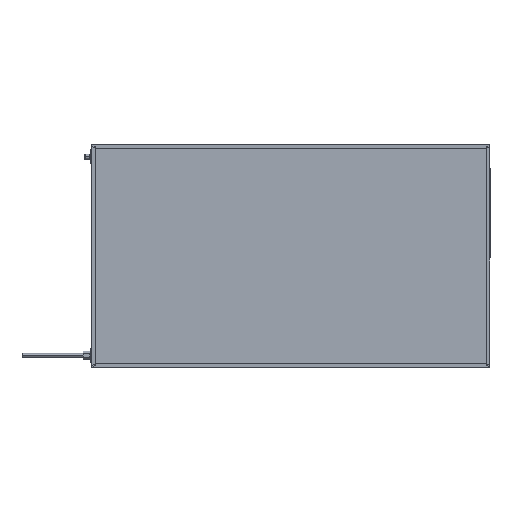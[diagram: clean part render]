
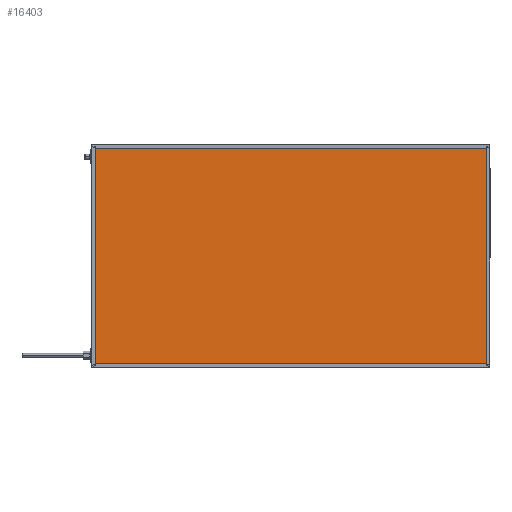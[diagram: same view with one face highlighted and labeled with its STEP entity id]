
A CAD part, top view. The second image highlights one B-rep face of the part: STEP entity #16403.
In plain terms, the highlighted planar face has unit normal (0, 0, 1).
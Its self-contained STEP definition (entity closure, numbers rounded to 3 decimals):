
#928 = DIRECTION ( 'NONE',  ( 0., 0., -1. ) ) ;
#1239 = CARTESIAN_POINT ( 'NONE',  ( 896., 496., 41.85 ) ) ;
#2926 = CARTESIAN_POINT ( 'NONE',  ( 4., 496., 41.85 ) ) ;
#3844 = EDGE_CURVE ( 'NONE', #14119, #12027, #15319, .T. ) ;
#4671 = LINE ( 'NONE', #12974, #8990 ) ;
#5313 = EDGE_CURVE ( 'NONE', #12027, #8526, #15824, .T. ) ;
#5585 = DIRECTION ( 'NONE',  ( 0., 1., 0. ) ) ;
#5603 = AXIS2_PLACEMENT_3D ( 'NONE', #6398, #928, #9058 ) ;
#5783 = DIRECTION ( 'NONE',  ( 1., 0., 0. ) ) ;
#6398 = CARTESIAN_POINT ( 'NONE',  ( 0., 0., 41.85 ) ) ;
#6667 = ORIENTED_EDGE ( 'NONE', *, *, #11864, .T. ) ;
#6859 = VECTOR ( 'NONE', #5783, 1000. ) ;
#6874 = VECTOR ( 'NONE', #9569, 1000. ) ;
#6944 = LINE ( 'NONE', #14261, #13141 ) ;
#8104 = CARTESIAN_POINT ( 'NONE',  ( 896., 4., 41.85 ) ) ;
#8261 = EDGE_CURVE ( 'NONE', #9758, #14119, #4671, .T. ) ;
#8526 = VERTEX_POINT ( 'NONE', #8104 ) ;
#8990 = VECTOR ( 'NONE', #11873, 1000. ) ;
#9058 = DIRECTION ( 'NONE',  ( -1., 0., 0. ) ) ;
#9094 = ORIENTED_EDGE ( 'NONE', *, *, #3844, .T. ) ;
#9569 = DIRECTION ( 'NONE',  ( 0., -1., 0. ) ) ;
#9758 = VERTEX_POINT ( 'NONE', #1239 ) ;
#9933 = CARTESIAN_POINT ( 'NONE',  ( 4., 0., 41.85 ) ) ;
#11864 = EDGE_CURVE ( 'NONE', #8526, #9758, #6944, .T. ) ;
#11873 = DIRECTION ( 'NONE',  ( -1., 0., 0. ) ) ;
#12027 = VERTEX_POINT ( 'NONE', #15224 ) ;
#12700 = ORIENTED_EDGE ( 'NONE', *, *, #5313, .T. ) ;
#12811 = CARTESIAN_POINT ( 'NONE',  ( 0., 4., 41.85 ) ) ;
#12974 = CARTESIAN_POINT ( 'NONE',  ( 0., 496., 41.85 ) ) ;
#13141 = VECTOR ( 'NONE', #5585, 1000. ) ;
#13430 = FACE_OUTER_BOUND ( 'NONE', #14661, .T. ) ;
#14119 = VERTEX_POINT ( 'NONE', #2926 ) ;
#14261 = CARTESIAN_POINT ( 'NONE',  ( 896., 0., 41.85 ) ) ;
#14661 = EDGE_LOOP ( 'NONE', ( #6667, #15581, #9094, #12700 ) ) ;
#15224 = CARTESIAN_POINT ( 'NONE',  ( 4., 4., 41.85 ) ) ;
#15319 = LINE ( 'NONE', #9933, #6874 ) ;
#15581 = ORIENTED_EDGE ( 'NONE', *, *, #8261, .T. ) ;
#15824 = LINE ( 'NONE', #12811, #6859 ) ;
#16403 = ADVANCED_FACE ( 'NONE', ( #13430 ), #17618, .F. ) ;
#17618 = PLANE ( 'NONE',  #5603 ) ;
